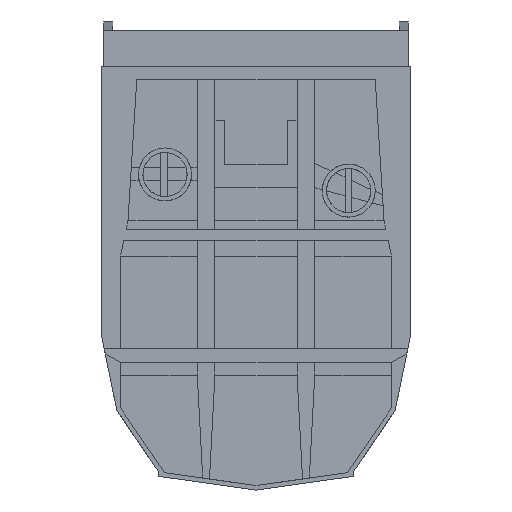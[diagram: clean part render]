
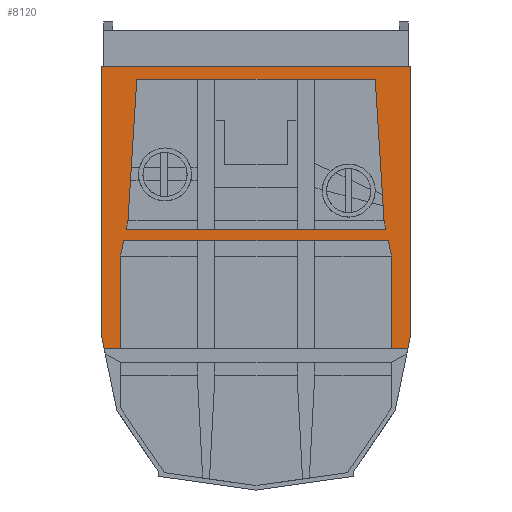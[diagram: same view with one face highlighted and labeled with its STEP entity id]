
A CAD part, left-side view. The second image highlights one B-rep face of the part: STEP entity #8120.
In plain terms, the highlighted planar face has unit normal (-1, 0, 0) as drawn and (1, 0, 0) by its records, which use the part's own axes.
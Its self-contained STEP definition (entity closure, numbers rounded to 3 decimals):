
#765=DIRECTION('',(0.,0.207,0.978));
#766=VECTOR('',#765,1.022);
#767=CARTESIAN_POINT('',(73.,-14.711,-18.5));
#768=LINE('',#767,#766);
#769=DIRECTION('',(0.,-1.,0.));
#770=VECTOR('',#769,29.423);
#771=CARTESIAN_POINT('',(73.,14.711,-18.5));
#772=LINE('',#771,#770);
#773=DIRECTION('',(0.,0.207,-0.978));
#774=VECTOR('',#773,1.022);
#775=CARTESIAN_POINT('',(73.,14.5,-17.5));
#776=LINE('',#775,#774);
#777=DIRECTION('',(0.,0.062,-0.998));
#778=VECTOR('',#777,16.031);
#779=CARTESIAN_POINT('',(73.,13.5,-1.5));
#780=LINE('',#779,#778);
#781=DIRECTION('',(0.,1.,0.));
#782=VECTOR('',#781,27.);
#783=CARTESIAN_POINT('',(73.,-13.5,-1.5));
#784=LINE('',#783,#782);
#785=DIRECTION('',(0.,0.062,0.998));
#786=VECTOR('',#785,16.031);
#787=CARTESIAN_POINT('',(73.,-14.5,-17.5));
#788=LINE('',#787,#786);
#789=DIRECTION('',(0.,0.207,-0.978));
#790=VECTOR('',#789,1.789);
#791=CARTESIAN_POINT('',(73.,14.975,-19.75));
#792=LINE('',#791,#790);
#793=DIRECTION('',(0.,1.,0.));
#794=VECTOR('',#793,29.951);
#795=CARTESIAN_POINT('',(73.,-14.975,-19.75));
#796=LINE('',#795,#794);
#797=DIRECTION('',(0.,0.207,0.978));
#798=VECTOR('',#797,1.789);
#799=CARTESIAN_POINT('',(73.,-15.345,-21.5));
#800=LINE('',#799,#798);
#801=DIRECTION('',(0.,0.,1.));
#802=VECTOR('',#801,10.5);
#803=CARTESIAN_POINT('',(73.,-15.345,-32.));
#804=LINE('',#803,#802);
#805=DIRECTION('',(0.,-1.,0.));
#806=VECTOR('',#805,1.846);
#807=CARTESIAN_POINT('',(73.,-15.345,-32.));
#808=LINE('',#807,#806);
#809=DIRECTION('',(0.,0.202,-0.979));
#810=VECTOR('',#809,1.531);
#811=CARTESIAN_POINT('',(73.,-17.5,-30.5));
#812=LINE('',#811,#810);
#813=DIRECTION('',(0.,0.,-1.));
#814=VECTOR('',#813,30.5);
#815=CARTESIAN_POINT('',(73.,-17.5,0.));
#816=LINE('',#815,#814);
#817=DIRECTION('',(0.,-1.,0.));
#818=VECTOR('',#817,35.);
#819=CARTESIAN_POINT('',(73.,17.5,0.));
#820=LINE('',#819,#818);
#821=DIRECTION('',(0.,0.,1.));
#822=VECTOR('',#821,30.5);
#823=CARTESIAN_POINT('',(73.,17.5,-30.5));
#824=LINE('',#823,#822);
#825=DIRECTION('',(0.,0.202,0.979));
#826=VECTOR('',#825,1.531);
#827=CARTESIAN_POINT('',(73.,17.191,-32.));
#828=LINE('',#827,#826);
#829=DIRECTION('',(0.,-1.,0.));
#830=VECTOR('',#829,1.846);
#831=CARTESIAN_POINT('',(73.,17.191,-32.));
#832=LINE('',#831,#830);
#833=DIRECTION('',(0.,0.,-1.));
#834=VECTOR('',#833,10.5);
#835=CARTESIAN_POINT('',(73.,15.345,-21.5));
#836=LINE('',#835,#834);
#5553=CARTESIAN_POINT('',(73.,17.5,-30.5));
#5554=CARTESIAN_POINT('',(73.,17.5,0.));
#5555=VERTEX_POINT('',#5553);
#5556=VERTEX_POINT('',#5554);
#5557=CARTESIAN_POINT('',(73.,-17.5,0.));
#5558=VERTEX_POINT('',#5557);
#5559=CARTESIAN_POINT('',(73.,-17.5,-30.5));
#5560=VERTEX_POINT('',#5559);
#5561=CARTESIAN_POINT('',(73.,13.5,-1.5));
#5562=CARTESIAN_POINT('',(73.,14.5,-17.5));
#5563=VERTEX_POINT('',#5561);
#5564=VERTEX_POINT('',#5562);
#5575=CARTESIAN_POINT('',(73.,-14.5,-17.5));
#5576=CARTESIAN_POINT('',(73.,-13.5,-1.5));
#5577=VERTEX_POINT('',#5575);
#5578=VERTEX_POINT('',#5576);
#5625=CARTESIAN_POINT('',(73.,15.345,-21.5));
#5626=VERTEX_POINT('',#5625);
#5627=CARTESIAN_POINT('',(73.,-15.345,-21.5));
#5628=VERTEX_POINT('',#5627);
#5737=CARTESIAN_POINT('',(73.,17.191,-32.));
#5738=CARTESIAN_POINT('',(73.,15.345,-32.));
#5739=VERTEX_POINT('',#5737);
#5740=VERTEX_POINT('',#5738);
#5741=CARTESIAN_POINT('',(73.,-15.345,-32.));
#5742=CARTESIAN_POINT('',(73.,-17.191,-32.));
#5743=VERTEX_POINT('',#5741);
#5744=VERTEX_POINT('',#5742);
#5782=CARTESIAN_POINT('',(73.,14.711,-18.5));
#5784=VERTEX_POINT('',#5782);
#5786=CARTESIAN_POINT('',(73.,14.975,-19.75));
#5788=VERTEX_POINT('',#5786);
#5790=CARTESIAN_POINT('',(73.,-14.711,-18.5));
#5792=VERTEX_POINT('',#5790);
#5794=CARTESIAN_POINT('',(73.,-14.975,-19.75));
#5796=VERTEX_POINT('',#5794);
#8076=CARTESIAN_POINT('',(73.,0.,0.));
#8077=DIRECTION('',(1.,0.,0.));
#8078=DIRECTION('',(0.,-1.,0.));
#8079=AXIS2_PLACEMENT_3D('',#8076,#8077,#8078);
#8080=PLANE('',#8079);
#8082=ORIENTED_EDGE('',*,*,#8081,.F.);
#8084=ORIENTED_EDGE('',*,*,#8083,.F.);
#8086=ORIENTED_EDGE('',*,*,#8085,.F.);
#8088=ORIENTED_EDGE('',*,*,#8087,.F.);
#8090=ORIENTED_EDGE('',*,*,#8089,.T.);
#8092=ORIENTED_EDGE('',*,*,#8091,.F.);
#8094=ORIENTED_EDGE('',*,*,#8093,.F.);
#8095=ORIENTED_EDGE('',*,*,#7064,.F.);
#8097=ORIENTED_EDGE('',*,*,#8096,.F.);
#8099=ORIENTED_EDGE('',*,*,#8098,.F.);
#8101=ORIENTED_EDGE('',*,*,#8100,.T.);
#8103=ORIENTED_EDGE('',*,*,#8102,.F.);
#8104=EDGE_LOOP('',(#8082,#8084,#8086,#8088,#8090,#8092,#8094,#8095,#8097,#8099,
#8101,#8103));
#8105=FACE_OUTER_BOUND('',#8104,.F.);
#8107=ORIENTED_EDGE('',*,*,#8106,.F.);
#8109=ORIENTED_EDGE('',*,*,#8108,.F.);
#8111=ORIENTED_EDGE('',*,*,#8110,.F.);
#8113=ORIENTED_EDGE('',*,*,#8112,.F.);
#8115=ORIENTED_EDGE('',*,*,#8114,.F.);
#8117=ORIENTED_EDGE('',*,*,#8116,.F.);
#8118=EDGE_LOOP('',(#8107,#8109,#8111,#8113,#8115,#8117));
#8119=FACE_BOUND('',#8118,.F.);
#8120=ADVANCED_FACE('',(#8105,#8119),#8080,.T.);
#7064=EDGE_CURVE('',#5556,#5558,#820,.T.);
#8081=EDGE_CURVE('',#5788,#5626,#792,.T.);
#8083=EDGE_CURVE('',#5796,#5788,#796,.T.);
#8085=EDGE_CURVE('',#5628,#5796,#800,.T.);
#8087=EDGE_CURVE('',#5743,#5628,#804,.T.);
#8089=EDGE_CURVE('',#5743,#5744,#808,.T.);
#8091=EDGE_CURVE('',#5560,#5744,#812,.T.);
#8093=EDGE_CURVE('',#5558,#5560,#816,.T.);
#8096=EDGE_CURVE('',#5555,#5556,#824,.T.);
#8098=EDGE_CURVE('',#5739,#5555,#828,.T.);
#8100=EDGE_CURVE('',#5739,#5740,#832,.T.);
#8102=EDGE_CURVE('',#5626,#5740,#836,.T.);
#8106=EDGE_CURVE('',#5792,#5577,#768,.T.);
#8108=EDGE_CURVE('',#5784,#5792,#772,.T.);
#8110=EDGE_CURVE('',#5564,#5784,#776,.T.);
#8112=EDGE_CURVE('',#5563,#5564,#780,.T.);
#8114=EDGE_CURVE('',#5578,#5563,#784,.T.);
#8116=EDGE_CURVE('',#5577,#5578,#788,.T.);
